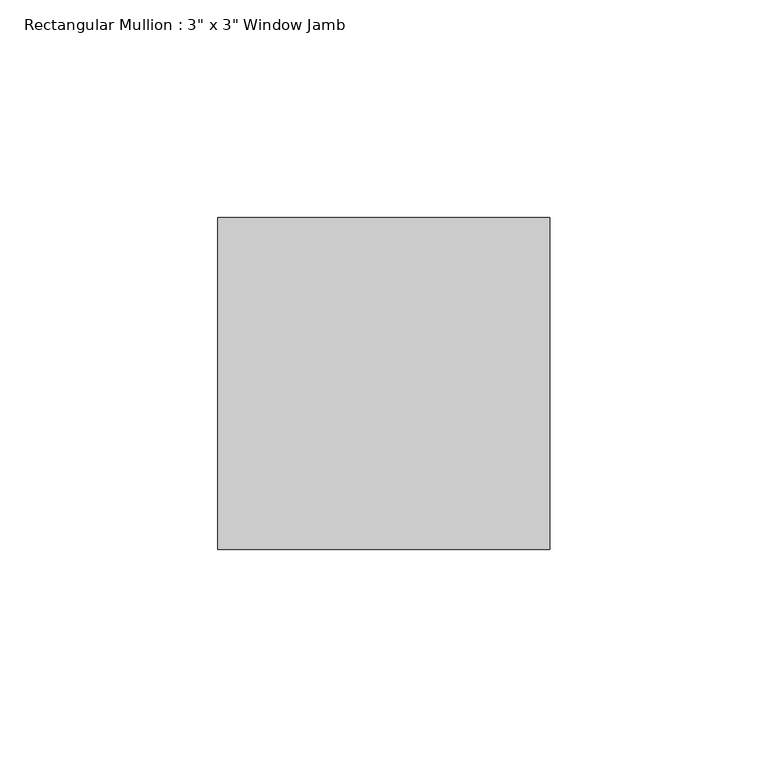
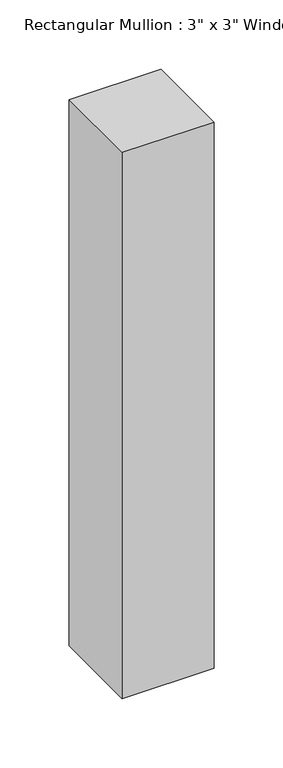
"""IFC4 building model written with IfcOpenShell, lengths in millimetres: member geometry."""

from ifc_helpers import new_model, si_unit, frame, origin, place, context, project, spatial, polyline, outline, extrude, source, transform, mapped, element, save


def member_9d26962d(model_context):
    return source(origin(), model_context, "Body", "SweptSolid", [
        extrude(outline(polyline([(0.0, 50.8), (0.0, -25.4), (-76.2, -25.4), (-76.2, 50.8), (0.0, 50.8)])), frame((0.0, 0.0, -480.06), z_axis=(0.0, 0.0, 1.0), x_axis=(1.0, 0.0, 0.0)), (0.0, 0.0, 1.0), 480.06),
    ])


if __name__ == "__main__":
    model = new_model("IFC4")
    model_context = context("Model", 3, world=origin())
    ifc_project = project(units=[si_unit("LENGTHUNIT", "METRE", prefix="MILLI")], contexts=[model_context])
    site = spatial("IfcSite", under=ifc_project)
    building = spatial("IfcBuilding", under=site)
    placement = place(None, origin())
    member_shape = member_9d26962d(model_context)
    element("IfcMember", 1, ObjectType="Rectangular Mullion : 3\" x 3\" Window Jamb", at=placement, inside=building, context=model_context, shape_type="MappedRepresentation", body=[
        mapped(member_shape, transform((0.0, 0.0, 0.0), x_axis=(1.0, 0.0, 0.0), y_axis=(0.0, 1.0, 0.0), z_axis=(0.0, 0.0, 1.0))),
    ])
    save(model, "model.ifc")
